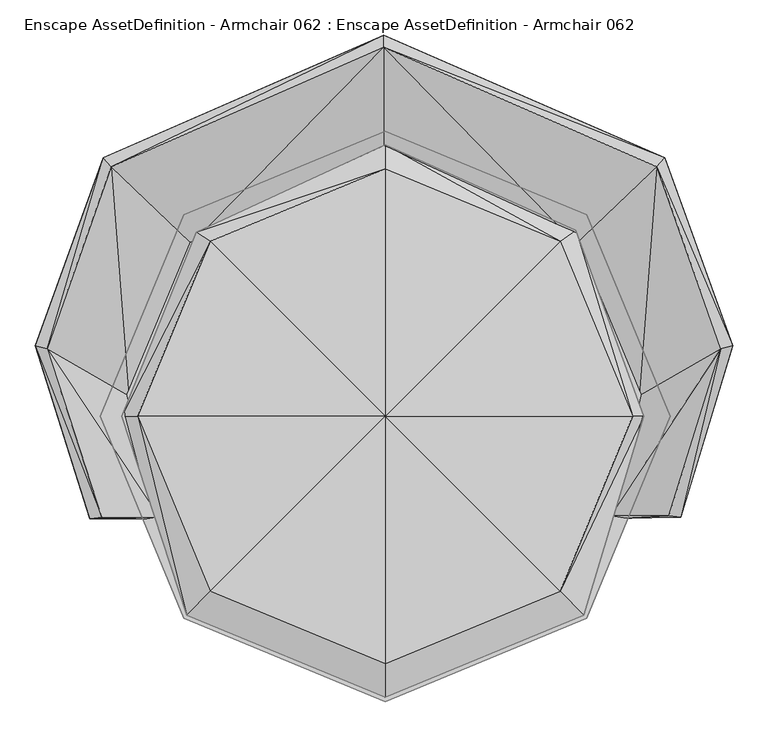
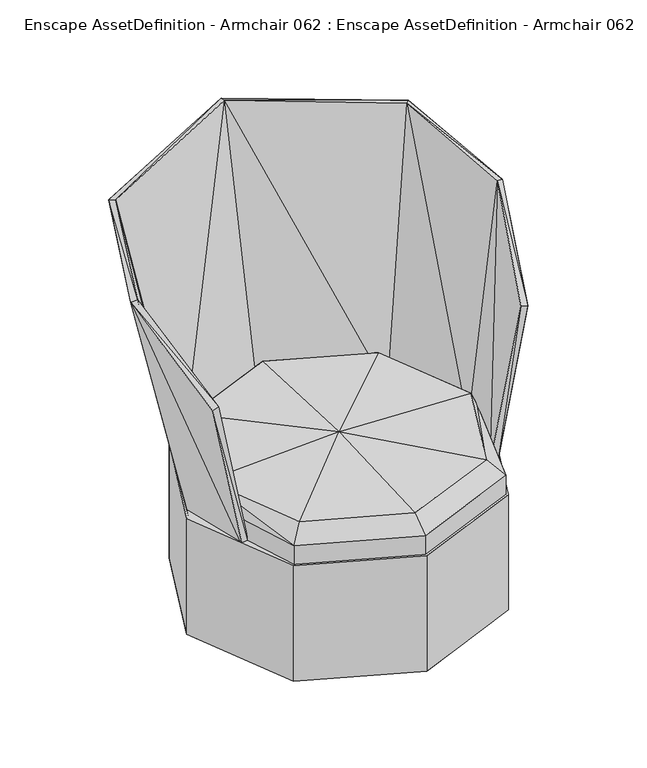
"""IFC4 building model written with IfcOpenShell, lengths in millimetres: geographic element geometry, Enscape AssetDefinition - Armchair 062 : Enscape AssetDefinition - Armchair 062."""

from ifc_helpers import new_model, si_unit, origin, place, context, project, spatial, triangles, source, transform, mapped, element, save


def enscape_assetdefinition_armchair_062_enscape_assetdefinition_c0738665(model_context):
    return source(origin(), model_context, "Body", "Tessellation", [
        triangles([(269.3910603, 263.8270286, 376.0849657), (366.0976756, 0.0, 224.487642), (366.0976756, 0.0, 376.0849657), (269.3910603, 263.8270286, 224.487642), (247.7552806, 247.7552806, 411.6977629), (281.2686238, -281.2686238, 376.0849657), (281.2686238, -281.2686238, 224.487642), (0.0, -397.7735765, 224.487642), (0.0, -397.7735765, 376.0849657), (0.0, -350.3783953, 411.6977629), (247.7552806, -247.7552806, 411.6977629), (350.3783953, 0.0, 411.6977629), (0.0, 350.3783953, 411.6977629), (-350.3783953, 0.0, 411.6977629), (0.0, 0.0, 426.9024671), (-247.7552806, -247.7552806, 411.6977629), (-281.2686238, -281.2686238, 376.0849657), (-281.2686238, -281.2686238, 224.487642), (-372.9492923, 0.0, 224.487642), (-267.60178, 260.611509, 376.0849657), (-247.7552806, 247.7552806, 411.6977629), (0.0, 384.4133454, 376.0849657), (0.0, 384.4133454, 224.487642), (-372.9492923, 0.0, 376.0849657), (-267.60178, 260.611509, 224.487642), (0.0, -403.8310192, 0.0), (0.0, -403.8310192, 323.454639), (-285.5520833, -285.5520833, 0.0), (-285.5520833, -285.5520833, 323.454639), (0.0, 403.8310192, 323.454639), (-403.8310192, 0.0, 323.454639), (285.5520833, -285.5520833, 323.454639), (285.5520833, -285.5520833, 0.0), (403.8310192, 0.0, 323.454639), (285.5520833, 285.5520833, 0.0), (285.5520833, 285.5520833, 323.454639), (403.8310192, 0.0, 0.0), (0.0, 403.8310192, 0.0), (-285.5520833, 285.5520833, 323.454639), (-285.5520833, 285.5520833, 0.0), (-403.8310192, 0.0, 0.0), (-478.9488905, 95.5423604, 906.4728676), (-320.2121043, -142.5968829, 308.9795051), (-273.9517739, 244.3388467, 308.6446418), (-363.42491, 29.2334423, 308.6446418), (-399.2456523, 366.1246725, 995.0143381), (-388.0859047, 353.1674329, 999.2754879), (-418.3285355, -144.6880979, 719.6856497), (-401.2428778, -142.5968829, 723.4580938), (-338.1835728, -145.7066676, 305.6112514), (-381.1519893, 30.7947977, 304.8335009), (-495.503476, 99.9844131, 902.3762426), (-1.8057228, 522.2979887, 1039.9999643), (-1.8057228, 369.4165501, 308.6446418), (270.3403301, 244.3388467, 308.6446418), (-1.8057228, 386.6079426, 304.7736026), (-286.725758, 256.4337843, 304.5315389), (-1.8057228, 539.4353148, 1035.8916395), (283.1143142, 256.4337843, 304.5315389), (491.8920321, 99.9844131, 902.3762426), (395.6342448, 366.1246725, 995.0143381), (384.4744609, 353.1674329, 999.2754879), (377.5417445, 30.7947977, 304.8335009), (475.3374467, 95.5423604, 906.4728676), (319.1489061, -140.9732538, 308.9372111), (359.8146289, 29.2334423, 308.6446418), (418.5611521, -143.0632879, 719.642193), (401.4743317, -140.9732538, 723.4157999), (337.1203382, -144.0830567, 305.5677584)], [[68, 65, 69], [69, 67, 68], [64, 68, 67], [64, 66, 65], [65, 68, 64], [67, 60, 64], [69, 63, 60], [60, 67, 69], [62, 64, 60], [62, 55, 66], [66, 64, 62], [60, 61, 62], [63, 59, 61], [61, 60, 63], [59, 56, 58], [58, 61, 59], [58, 56, 57], [53, 62, 61], [61, 58, 53], [55, 62, 53], [53, 54, 55], [44, 54, 53], [47, 53, 58], [53, 47, 44], [58, 46, 47], [57, 46, 58], [46, 57, 51], [51, 52, 46], [52, 51, 50], [50, 48, 52], [52, 48, 49], [42, 47, 46], [46, 52, 42], [49, 42, 52], [47, 42, 45], [45, 44, 47], [43, 49, 48], [48, 50, 43], [42, 49, 43], [43, 45, 42], [29, 31, 41], [40, 41, 31], [31, 39, 40], [38, 40, 39], [41, 38, 37], [41, 40, 38], [38, 35, 37], [37, 35, 36], [30, 39, 31], [39, 30, 38], [30, 36, 35], [35, 38, 30], [34, 36, 30], [36, 34, 37], [33, 37, 34], [34, 32, 33], [32, 34, 27], [34, 30, 27], [30, 31, 27], [31, 29, 27], [27, 29, 28], [41, 28, 29], [32, 27, 26], [26, 33, 32], [28, 26, 27], [33, 26, 37], [26, 41, 37], [26, 28, 41], [25, 19, 24], [24, 20, 25], [20, 22, 23], [23, 25, 20], [13, 22, 20], [21, 20, 24], [20, 21, 13], [24, 14, 21], [14, 24, 17], [17, 24, 19], [19, 18, 17], [9, 17, 18], [18, 8, 9], [16, 17, 9], [17, 16, 14], [9, 10, 16], [16, 10, 15], [14, 16, 15], [21, 14, 15], [13, 21, 15], [22, 13, 5], [5, 13, 15], [12, 5, 15], [11, 12, 15], [10, 11, 15], [6, 11, 10], [10, 9, 6], [6, 9, 8], [8, 7, 6], [3, 12, 11], [11, 6, 3], [3, 6, 7], [5, 1, 22], [1, 5, 12], [12, 3, 1], [22, 1, 4], [4, 23, 22], [7, 2, 3], [1, 3, 2], [2, 4, 1]], closed=False),
    ])


if __name__ == "__main__":
    model = new_model("IFC4")
    model_context = context("Model", 3, world=origin())
    ifc_project = project(units=[si_unit("LENGTHUNIT", "METRE", prefix="MILLI")], contexts=[model_context])
    site = spatial("IfcSite", under=ifc_project)
    building = spatial("IfcBuilding", under=site)
    placement = place(None, origin())
    enscape_assetdefinition_armchair_062_enscape_assetdefinition_shape = enscape_assetdefinition_armchair_062_enscape_assetdefinition_c0738665(model_context)
    element("IfcGeographicElement", 1, ObjectType="Enscape AssetDefinition - Armchair 062 : Enscape AssetDefinition - Armchair 062", at=placement, inside=building, context=model_context, shape_type="MappedRepresentation", body=[
        mapped(enscape_assetdefinition_armchair_062_enscape_assetdefinition_shape, transform((0.0, 0.0, 0.0), x_axis=(1.0, 0.0, 0.0), y_axis=(0.0, 1.0, 0.0), z_axis=(0.0, 0.0, 1.0))),
    ])
    save(model, "model.ifc")
